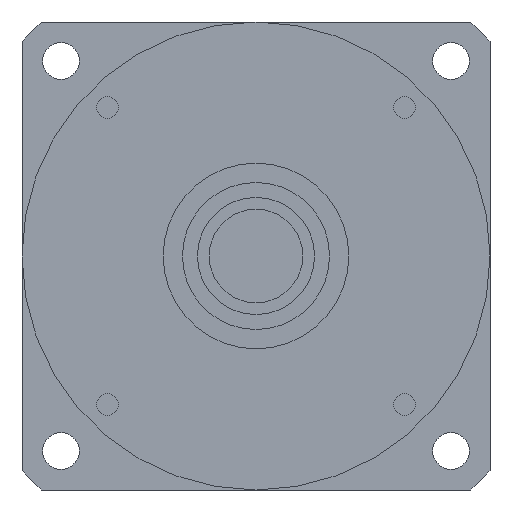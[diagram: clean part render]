
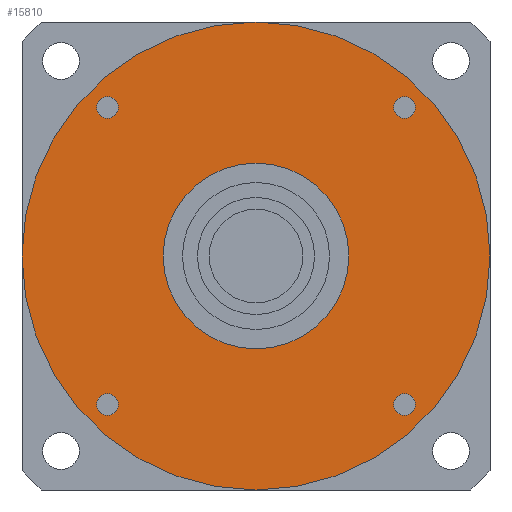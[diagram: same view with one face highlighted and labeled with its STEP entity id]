
A CAD part, left-side view. The second image highlights one B-rep face of the part: STEP entity #15810.
In plain terms, the highlighted planar face has unit normal (-1, 0, 0) as drawn and (0, 0, -1) by its records, which use the part's own axes.
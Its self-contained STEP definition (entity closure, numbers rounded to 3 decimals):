
#14690=CARTESIAN_POINT('',(-70.,0.,-84.701));
#14700=VERTEX_POINT('',#14690);
#14730=CARTESIAN_POINT('',(0.,0.,
-84.701));
#14740=DIRECTION('',(0.,0.,-1.));
#14750=DIRECTION('',(0.,-1.,0.));
#14760=AXIS2_PLACEMENT_3D('',#14730,#14740,#14750);
#14770=CIRCLE('',#14760,70.);
#14780=CARTESIAN_POINT('',(70.,0.,-84.701));
#14790=VERTEX_POINT('',#14780);
#14800=EDGE_CURVE('',#14700,#14790,#14770,.T.);
#14920=CARTESIAN_POINT('',(0.,0.,
-84.701));
#14930=DIRECTION('',(0.,0.,-1.));
#14940=DIRECTION('',(1.,0.,0.));
#14950=AXIS2_PLACEMENT_3D('',#14920,#14930,#14940);
#14960=PLANE('',#14950);
#14970=CARTESIAN_POINT('',(44.449,44.449,-84.701));
#14980=DIRECTION('',(0.,0.,-1.));
#14990=DIRECTION('',(0.,1.,0.));
#15000=AXIS2_PLACEMENT_3D('',#14970,#14980,#14990);
#15010=CIRCLE('',#15000,3.25);
#15020=CARTESIAN_POINT('',(44.449,47.699,-84.701));
#15030=VERTEX_POINT('',#15020);
#15040=CARTESIAN_POINT('',(44.449,41.199,-84.701));
#15050=VERTEX_POINT('',#15040);
#15060=EDGE_CURVE('',#15030,#15050,#15010,.T.);
#15070=ORIENTED_EDGE('',*,*,#15060,.F.);
#15080=EDGE_CURVE('',#15050,#15030,#15010,.T.);
#15090=ORIENTED_EDGE('',*,*,#15080,.F.);
#15100=EDGE_LOOP('',(#15090,#15070));
#15110=FACE_BOUND('',#15100,.T.);
#15120=CARTESIAN_POINT('',(-44.449,44.449,-84.701));
#15130=DIRECTION('',(0.,0.,-1.));
#15140=DIRECTION('',(-1.,0.,0.));
#15150=AXIS2_PLACEMENT_3D('',#15120,#15130,#15140);
#15160=CIRCLE('',#15150,3.25);
#15170=CARTESIAN_POINT('',(-47.699,44.449,-84.701));
#15180=VERTEX_POINT('',#15170);
#15190=CARTESIAN_POINT('',(-41.199,44.449,-84.701));
#15200=VERTEX_POINT('',#15190);
#15210=EDGE_CURVE('',#15180,#15200,#15160,.T.);
#15220=ORIENTED_EDGE('',*,*,#15210,.F.);
#15230=EDGE_CURVE('',#15200,#15180,#15160,.T.);
#15240=ORIENTED_EDGE('',*,*,#15230,.F.);
#15250=EDGE_LOOP('',(#15240,#15220));
#15260=FACE_BOUND('',#15250,.T.);
#15270=CARTESIAN_POINT('',(-44.449,-44.449,-84.701))
;
#15280=DIRECTION('',(0.,0.,-1.));
#15290=DIRECTION('',(0.,-1.,0.));
#15300=AXIS2_PLACEMENT_3D('',#15270,#15280,#15290);
#15310=CIRCLE('',#15300,3.25);
#15320=CARTESIAN_POINT('',(-44.449,-47.699,-84.701))
;
#15330=VERTEX_POINT('',#15320);
#15340=CARTESIAN_POINT('',(-44.449,-41.199,-84.701))
;
#15350=VERTEX_POINT('',#15340);
#15360=EDGE_CURVE('',#15330,#15350,#15310,.T.);
#15370=ORIENTED_EDGE('',*,*,#15360,.F.);
#15380=EDGE_CURVE('',#15350,#15330,#15310,.T.);
#15390=ORIENTED_EDGE('',*,*,#15380,.F.);
#15400=EDGE_LOOP('',(#15390,#15370));
#15410=FACE_BOUND('',#15400,.T.);
#15420=CARTESIAN_POINT('',(0.,0.,
-84.701));
#15430=DIRECTION('',(0.,0.,-1.));
#15440=DIRECTION('',(0.,1.,0.));
#15450=AXIS2_PLACEMENT_3D('',#15420,#15430,#15440);
#15460=CIRCLE('',#15450,27.76);
#15470=CARTESIAN_POINT('',(0.,27.76,-84.701));
#15480=VERTEX_POINT('',#15470);
#15490=CARTESIAN_POINT('',(0.,-27.76,-84.701));
#15500=VERTEX_POINT('',#15490);
#15510=EDGE_CURVE('',#15480,#15500,#15460,.T.);
#15520=ORIENTED_EDGE('',*,*,#15510,.F.);
#15530=EDGE_CURVE('',#15500,#15480,#15460,.T.);
#15540=ORIENTED_EDGE('',*,*,#15530,.F.);
#15550=EDGE_LOOP('',(#15540,#15520));
#15560=FACE_BOUND('',#15550,.T.);
#15570=CARTESIAN_POINT('',(44.449,-44.449,-84.701));
#15580=DIRECTION('',(0.,0.,-1.));
#15590=DIRECTION('',(1.,0.,0.));
#15600=AXIS2_PLACEMENT_3D('',#15570,#15580,#15590);
#15610=CIRCLE('',#15600,3.25);
#15620=CARTESIAN_POINT('',(47.699,-44.449,-84.701));
#15630=VERTEX_POINT('',#15620);
#15640=CARTESIAN_POINT('',(41.199,-44.449,-84.701));
#15650=VERTEX_POINT('',#15640);
#15660=EDGE_CURVE('',#15630,#15650,#15610,.T.);
#15670=ORIENTED_EDGE('',*,*,#15660,.F.);
#15680=EDGE_CURVE('',#15650,#15630,#15610,.T.);
#15690=ORIENTED_EDGE('',*,*,#15680,.F.);
#15700=EDGE_LOOP('',(#15690,#15670));
#15710=FACE_BOUND('',#15700,.T.);
#15720=ORIENTED_EDGE('',*,*,#14800,.T.);
#15730=CARTESIAN_POINT('',(0.,-70.,-84.701));
#15740=VERTEX_POINT('',#15730);
#15750=EDGE_CURVE('',#15740,#14700,#14770,.T.);
#15760=ORIENTED_EDGE('',*,*,#15750,.T.);
#15770=EDGE_CURVE('',#14790,#15740,#14770,.T.);
#15780=ORIENTED_EDGE('',*,*,#15770,.T.);
#15790=EDGE_LOOP('',(#15780,#15760,#15720));
#15800=FACE_OUTER_BOUND('',#15790,.T.);
#15810=ADVANCED_FACE('',(#15110,#15260,#15410,#15560,#15710,#15800),
#14960,.T.);
